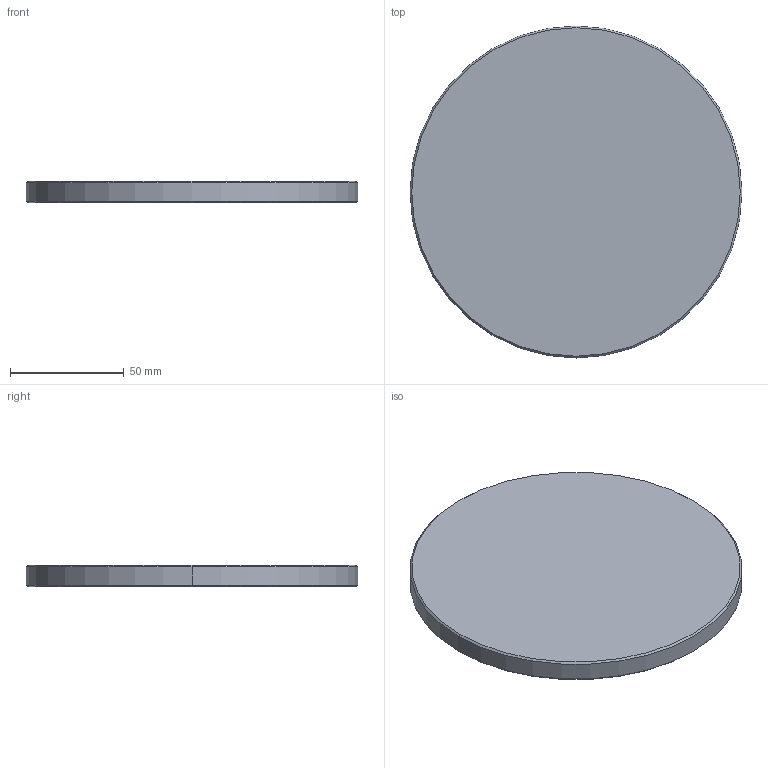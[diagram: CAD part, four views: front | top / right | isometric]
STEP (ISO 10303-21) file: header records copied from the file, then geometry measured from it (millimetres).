
FILE_DESCRIPTION((''),'2;1');
FILE_NAME('RMC-8080','2007-09-24T',('glafferty'),('Pleasant Precision, Inc. (419)675-0556'),'PRO/ENGINEER BY PARAMETRIC TECHNOLOGY CORPORATION, 2006080','PRO/ENGINEER BY PARAMETRIC TECHNOLOGY CORPORATION, 2006080','');
FILE_SCHEMA(('CONFIG_CONTROL_DESIGN'));
Length unit declared in the file: inch
Products named in the file (1): RMC-8080
Bounding box: 146.05 x 146.05 x 9.53 mm (x, y, z)
Volume: 159307 mm3; surface area: 37465.2 mm2
Topology: 1 solids, 1 shells, 8 faces, 14 edges, 8 vertices
Faces by surface type: cone 4, plane 2, cylinder 2
Entity records: 234 total; most frequent: DIRECTION 38, CARTESIAN_POINT 30, ORIENTED_EDGE 28, AXIS2_PLACEMENT_3D 16, EDGE_CURVE 14, VERTEX_POINT 8, EDGE_LOOP 8, FACE_OUTER_BOUND 8
